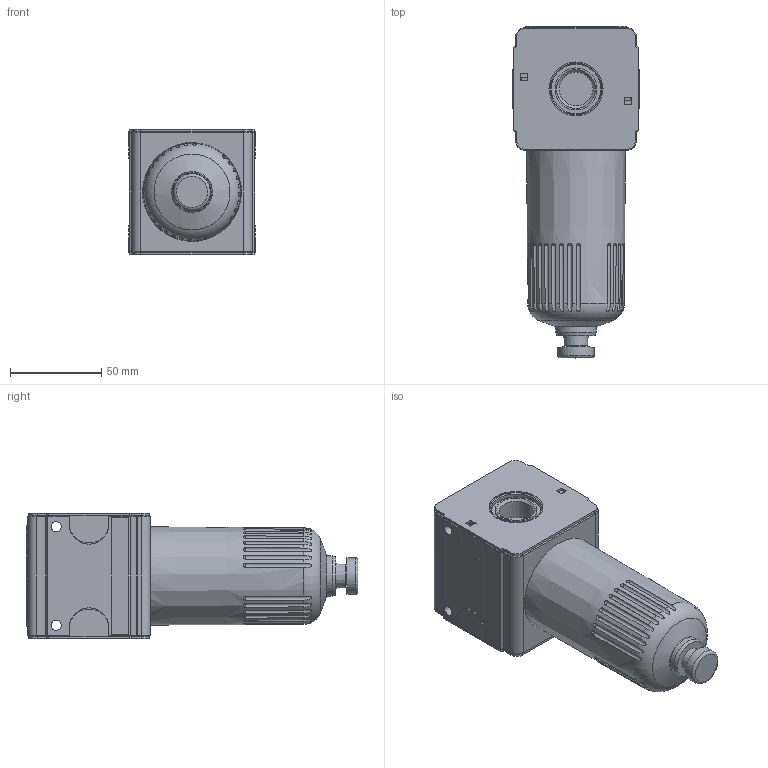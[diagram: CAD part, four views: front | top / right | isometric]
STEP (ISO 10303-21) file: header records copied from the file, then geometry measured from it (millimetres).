
FILE_DESCRIPTION((''),'2;1');
FILE_NAME('K:\ZEICHNG\Kunden Modelle\Multifix Steps\NL.4\F.33.stp','2010-03-10T13:37:20',('DDruske'),(''),'Autodesk Inventor 2009','Autodesk Inventor 2009','');
FILE_SCHEMA(('AUTOMOTIVE_DESIGN { 1 0 10303 214 1 1 1 1 }'));
Length unit declared in the file: millimetre
Products named in the file (1): Bauteil9
Bounding box: 69.2 x 181.8 x 68.8 mm (x, y, z)
Volume: 465853.8 mm3; surface area: 77856.9 mm2
Topology: 1 solids, 3 shells, 418 faces, 1156 edges, 725 vertices
Faces by surface type: plane 202, cylinder 92, bspline 84, sphere 28, torus 7, cone 5
Full cylindrical faces by diameter (mm): 5.5 x1, 8.41 x1, 18 x1, 20 x1, 22 x1, 23 x1, 27.2 x2, 29.4 x1, 29.6 x2, 55 x1
Entity records: 15116 total; most frequent: CARTESIAN_POINT 4550, ORIENTED_EDGE 2192, DIRECTION 1896, EDGE_CURVE 1096, VECTOR 738, LINE 738, VERTEX_POINT 717, AXIS2_PLACEMENT_3D 579
